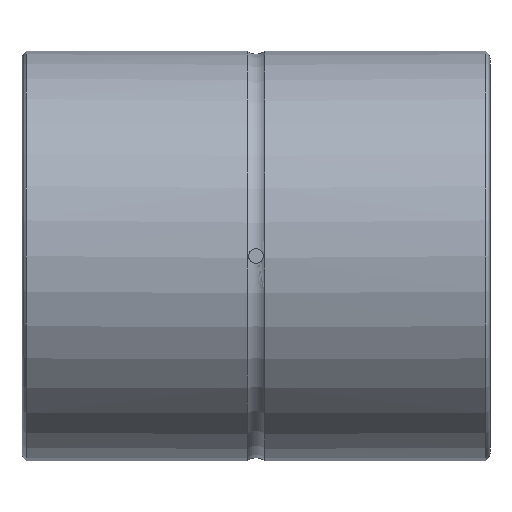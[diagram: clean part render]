
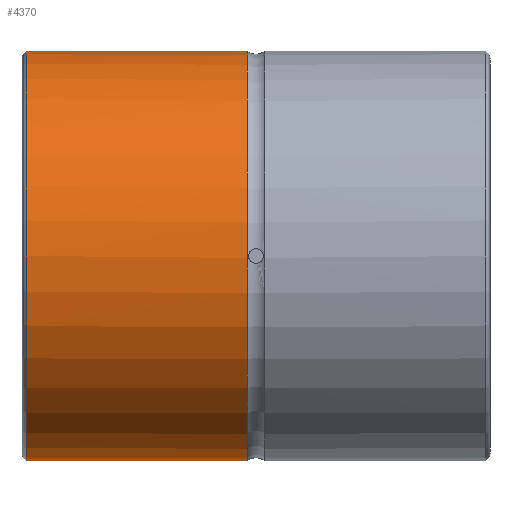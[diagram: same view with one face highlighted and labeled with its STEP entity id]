
A CAD part, front view. The second image highlights one B-rep face of the part: STEP entity #4370.
In plain terms, the highlighted cylindrical face has radius 70 mm (diameter 140 mm), a full revolution.
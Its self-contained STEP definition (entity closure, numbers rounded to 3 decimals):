
#23=B_SPLINE_CURVE_WITH_KNOTS('',3,(#7127,#7128,#7129,#7130,#7131,#7132,
#7133,#7134,#7135,#7136,#7137,#7138,#7139),.UNSPECIFIED.,.F.,.F.,(4,1,1,
1,1,1,1,1,1,1,4),(0.,0.003,0.005,0.008,
0.011,0.016,0.022,0.027,
0.033,0.038,0.044),.UNSPECIFIED.);
#414=LINE('',#7142,#832);
#415=LINE('',#7143,#833);
#832=VECTOR('',#5733,1000.);
#833=VECTOR('',#5734,1000.);
#1611=ORIENTED_EDGE('',*,*,#2658,.T.);
#1612=ORIENTED_EDGE('',*,*,#2659,.T.);
#1613=ORIENTED_EDGE('',*,*,#2651,.F.);
#1614=ORIENTED_EDGE('',*,*,#2660,.T.);
#1615=ORIENTED_EDGE('',*,*,#2657,.T.);
#2651=EDGE_CURVE('',#3175,#3176,#3488,.T.);
#2657=EDGE_CURVE('',#3181,#3181,#3490,.T.);
#2658=EDGE_CURVE('',#3182,#3183,#23,.T.);
#2659=EDGE_CURVE('',#3183,#3176,#414,.T.);
#2660=EDGE_CURVE('',#3175,#3182,#415,.F.);
#3175=VERTEX_POINT('',#7073);
#3176=VERTEX_POINT('',#7074);
#3181=VERTEX_POINT('',#7125);
#3182=VERTEX_POINT('',#7140);
#3183=VERTEX_POINT('',#7141);
#3488=CIRCLE('',#4780,70.);
#3490=CIRCLE('',#4783,70.);
#3691=EDGE_LOOP('',(#1611,#1612,#1613,#1614));
#3692=EDGE_LOOP('',(#1615));
#3987=FACE_BOUND('',#3691,.T.);
#3988=FACE_BOUND('',#3692,.T.);
#4214=CYLINDRICAL_SURFACE('',#4784,70.);
#4370=ADVANCED_FACE('',(#3987,#3988),#4214,.T.);
#4780=AXIS2_PLACEMENT_3D('',#7072,#5723,#5724);
#4783=AXIS2_PLACEMENT_3D('',#7124,#5729,#5730);
#4784=AXIS2_PLACEMENT_3D('',#7126,#5731,#5732);
#5723=DIRECTION('',(1.,0.,0.));
#5724=DIRECTION('',(0.,0.,-1.));
#5729=DIRECTION('',(1.,0.,0.));
#5730=DIRECTION('',(0.,0.,-1.));
#5731=DIRECTION('',(1.,0.,0.));
#5732=DIRECTION('',(0.,0.,-1.));
#5733=DIRECTION('',(1.,0.,0.));
#5734=DIRECTION('',(1.,0.,0.));
#7072=CARTESIAN_POINT('',(-3.,0.,0.));
#7073=CARTESIAN_POINT('',(-3.,68.586,14.));
#7074=CARTESIAN_POINT('',(-3.,68.586,-14.));
#7124=CARTESIAN_POINT('',(-78.5,0.,0.));
#7125=CARTESIAN_POINT('',(-78.5,0.,-70.));
#7126=CARTESIAN_POINT('',(80.,0.,0.));
#7127=CARTESIAN_POINT('',(-32.5,68.586,14.));
#7128=CARTESIAN_POINT('',(-33.427,68.586,14.));
#7129=CARTESIAN_POINT('',(-35.245,68.623,13.82));
#7130=CARTESIAN_POINT('',(-37.91,68.783,13.01));
#7131=CARTESIAN_POINT('',(-40.323,69.018,11.718));
#7132=CARTESIAN_POINT('',(-43.18,69.39,9.376));
#7133=CARTESIAN_POINT('',(-45.761,69.847,5.516));
#7134=CARTESIAN_POINT('',(-46.867,70.076,0.012));
#7135=CARTESIAN_POINT('',(-45.772,69.849,-5.496));
#7136=CARTESIAN_POINT('',(-42.661,69.298,-10.152));
#7137=CARTESIAN_POINT('',(-38.012,68.742,-13.262));
#7138=CARTESIAN_POINT('',(-34.355,68.586,-14.));
#7139=CARTESIAN_POINT('',(-32.5,68.586,-14.));
#7140=CARTESIAN_POINT('',(-32.5,68.586,14.));
#7141=CARTESIAN_POINT('',(-32.5,68.586,-14.));
#7142=CARTESIAN_POINT('',(80.,68.586,-14.));
#7143=CARTESIAN_POINT('',(80.,68.586,14.));
